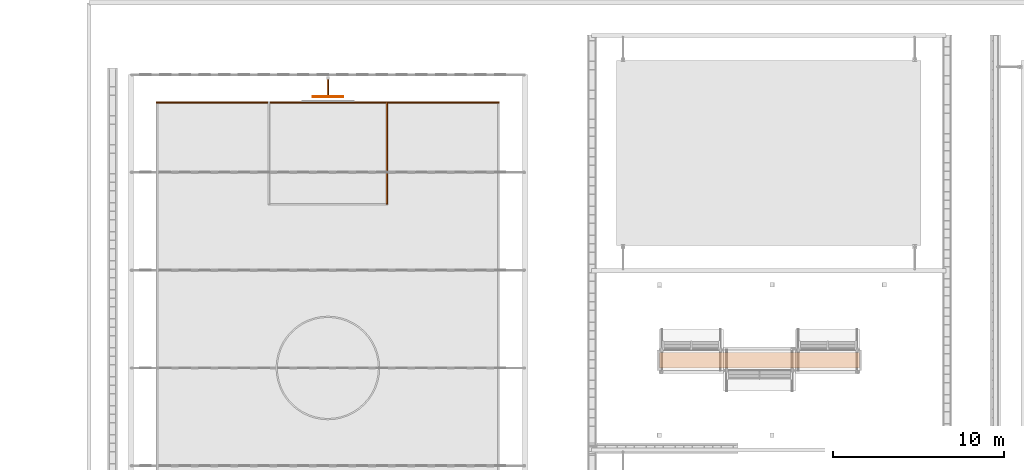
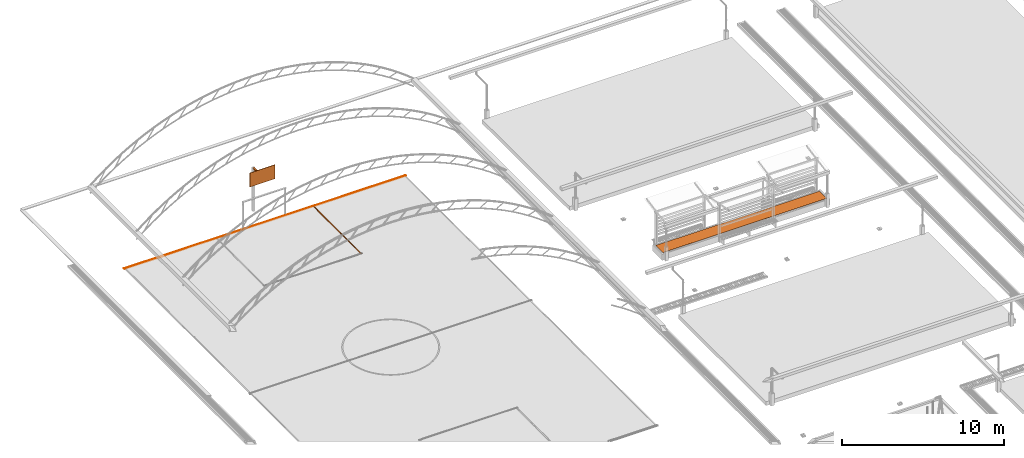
# One storey, part 90 of 90: 5 proxies.
"""IFC2X3 building model written with IfcOpenShell, lengths in metres."""

from ifc_helpers import new_model, si_unit, origin, origin_with_axes, place, context, subcontext, project, spatial, faceted_brep, element, save


model = new_model("IFC2X3")

# Units and contexts
model_context = context("Model", 3, precision=1e-05, world=origin_with_axes())
body_context = subcontext(model_context, "Body", "Model", "MODEL_VIEW")
ifc_project = project(units=[si_unit("LENGTHUNIT", "METRE"), si_unit("AREAUNIT", "SQUARE_METRE"), si_unit("VOLUMEUNIT", "CUBIC_METRE"), si_unit("PLANEANGLEUNIT", "RADIAN")], contexts=[model_context])

# Site, building, storey
site_placement = place(None, origin_with_axes())
site = spatial("IfcSite", under=ifc_project, at=site_placement, Name="Predio Los Mangos - Morales, San Martín", CompositionType="ELEMENT")
building_placement = place(site_placement, origin())
building = spatial("IfcBuilding", under=site, at=building_placement, Name="Hogar de Refugio Temporal", CompositionType="ELEMENT")
storey_placement = place(building_placement, origin())
storey = spatial("IfcBuildingStorey", under=building, at=storey_placement, Name="NIVEL 1 (NPT +0.00)", CompositionType="ELEMENT", Elevation=0.0)

# Proxies
proxy_1_placement = place(storey_placement, origin())
element("IfcBuildingElementProxy", 1, at=proxy_1_placement, inside=storey, Name="linea_cancha", ObjectType="Losa deportiva y vía", context=body_context, shape_type="Brep", body=[
    faceted_brep([(5.0, 125.32, 0.125), (5.0, 125.4, 0.125), (25.1, 125.4, 0.125), (25.1, 125.32, 0.125), (5.0, 125.32, 0.127), (25.1, 125.32, 0.127), (25.1, 125.4, 0.127), (5.0, 125.4, 0.127)], [[[0, 1, 2, 3]], [[4, 5, 6, 7]], [[0, 3, 5, 4]], [[3, 2, 6, 5]], [[2, 1, 7, 6]], [[1, 0, 4, 7]]]),
])
proxy_2_placement = place(storey_placement, origin())
element("IfcBuildingElementProxy", 2, at=proxy_2_placement, inside=storey, Name="linea_area", ObjectType="Losa deportiva y vía", context=body_context, shape_type="Brep", body=[
    faceted_brep([(18.47, 119.4, 0.127), (18.47, 125.4, 0.127), (18.55, 125.4, 0.127), (18.55, 119.4, 0.127), (18.47, 119.4, 0.129), (18.55, 119.4, 0.129), (18.55, 125.4, 0.129), (18.47, 125.4, 0.129)], [[[0, 1, 2, 3]], [[4, 5, 6, 7]], [[0, 3, 5, 4]], [[3, 2, 6, 5]], [[2, 1, 7, 6]], [[1, 0, 4, 7]]]),
])
proxy_3_placement = place(storey_placement, origin())
element("IfcBuildingElementProxy", 3, at=proxy_3_placement, inside=storey, Name="tablero", ObjectType="Losa deportiva y vía", context=body_context, shape_type="Brep", body=[
    faceted_brep([(14.15, 125.68, 2.9), (14.15, 125.72, 2.9), (15.95, 125.72, 2.9), (15.95, 125.68, 2.9), (14.15, 125.68, 3.95), (15.95, 125.68, 3.95), (15.95, 125.72, 3.95), (14.15, 125.72, 3.95)], [[[0, 1, 2, 3]], [[4, 5, 6, 7]], [[0, 3, 5, 4]], [[3, 2, 6, 5]], [[2, 1, 7, 6]], [[1, 0, 4, 7]]]),
])
proxy_4_placement = place(storey_placement, origin())
element("IfcBuildingElementProxy", 4, at=proxy_4_placement, inside=storey, Name="brazo", ObjectType="Losa deportiva y vía", context=body_context, shape_type="Brep", body=[
    faceted_brep([(15.0, 125.7, 3.3), (15.0, 126.8, 3.3), (15.1, 126.8, 3.3), (15.1, 125.7, 3.3), (15.0, 125.7, 3.4), (15.1, 125.7, 3.4), (15.1, 126.8, 3.4), (15.0, 126.8, 3.4)], [[[0, 1, 2, 3]], [[4, 5, 6, 7]], [[0, 3, 5, 4]], [[3, 2, 6, 5]], [[2, 1, 7, 6]], [[1, 0, 4, 7]]]),
])
proxy_5_placement = place(storey_placement, origin())
element("IfcBuildingElementProxy", 5, at=proxy_5_placement, inside=storey, Name="pasto_jardinera_2", ObjectType="Área verde", context=body_context, shape_type="Brep", body=[
    faceted_brep([(34.505, 110.7, 0.435), (46.205, 110.7, 0.435), (46.205, 109.8, 0.435), (34.505, 109.8, 0.435), (34.505, 110.7, 0.455), (34.505, 109.8, 0.455), (46.205, 109.8, 0.455), (46.205, 110.7, 0.455)], [[[0, 1, 2, 3]], [[4, 5, 6, 7]], [[7, 6, 2, 1]], [[4, 7, 1, 0]], [[5, 4, 0, 3]], [[6, 5, 3, 2]]]),
])

save(model, "model.ifc")
